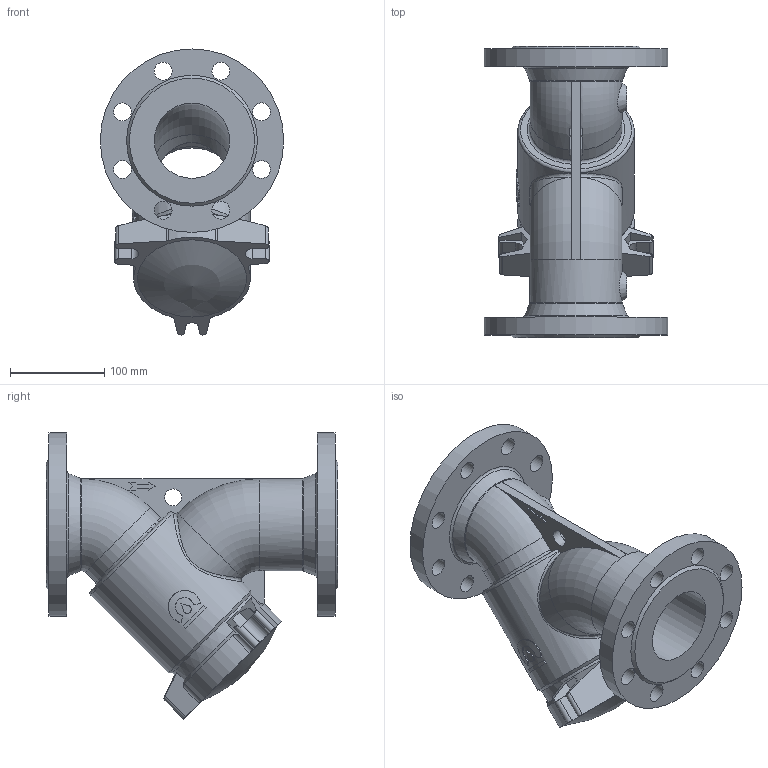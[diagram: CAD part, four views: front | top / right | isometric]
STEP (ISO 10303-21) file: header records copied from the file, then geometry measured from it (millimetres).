
FILE_DESCRIPTION(('STEP AP203'), '1');
FILE_NAME('Ôèëüòð ñåò÷àòûé ôëàíöåâûé 021Y.M DN80 PN10_PN16', '', ('UNSPECIFIED'), ('UNSPECIFIED'), 'ASCON STEP Converter 1.6', 'ASCON Math Kernel', '');
FILE_SCHEMA(('CONFIG_CONTROL_DESIGN'));
Length unit declared in the file: millimetre
Bounding box: 195 x 310 x 304.05 mm (x, y, z)
Volume: 2356542.2 mm3; surface area: 402851.5 mm2
Topology: 1 solids, 1 shells, 173 faces, 455 edges, 299 vertices
Faces by surface type: plane 83, cylinder 60, cone 15, torus 11, bspline 3, sphere 1
Full cylindrical faces by diameter (mm): 18 x1, 19 x16, 80 x4, 94 x2, 98 x1, 106 x1, 195 x2
Entity records: 10637 total; most frequent: CARTESIAN_POINT 5077, ORIENTED_EDGE 824, DIRECTION 806, EDGE_CURVE 412, AXIS2_PLACEMENT_3D 303, VERTEX_POINT 297, EDGE_LOOP 265, LINE 200
